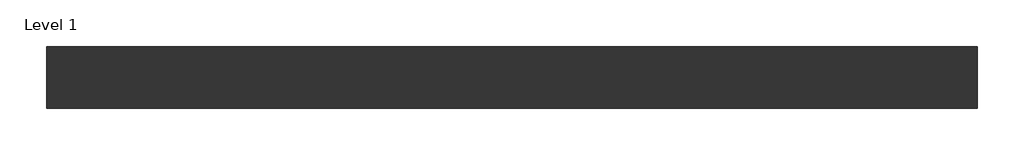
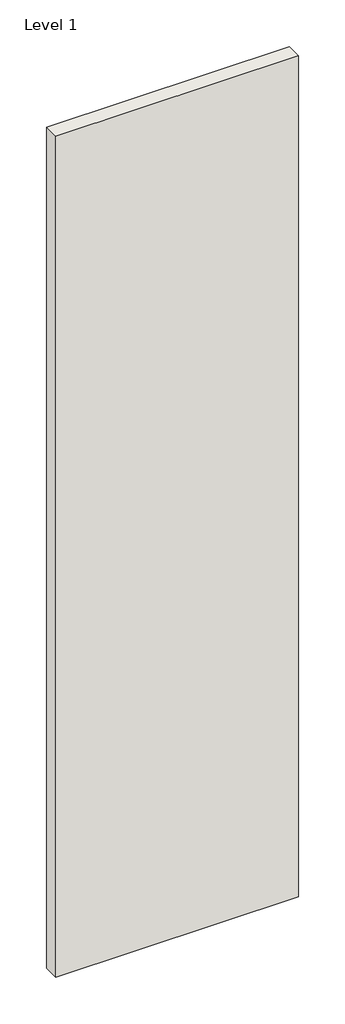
# One storey: 1 wall.
"""IFC4 building model written with IfcOpenShell, lengths in millimetres."""

from ifc_helpers import new_model, si_unit, origin, origin_with_axes, place, context, project, spatial, polyline, outline, extrude, element, save

model = new_model("IFC4")

# Units and contexts
model_context = context("Model", 3, world=origin())
ifc_project = project(units=[si_unit("LENGTHUNIT", "METRE", prefix="MILLI")], contexts=[model_context])

# Site, building, storey
site = spatial("IfcSite", under=ifc_project)
building = spatial("IfcBuilding", under=site)
storey = spatial("IfcBuildingStorey", under=building, Name="Level 1", Elevation=0.0)

# Wall
placement = place(None, origin())
element("IfcWall", 1, ObjectType="Trasdosado Simple – Placo® High Stil 125/100H a 450 mm con LM Ruller", at=placement, inside=storey, context=model_context, shape_type="SweptSolid", body=[
    extrude(outline(polyline([(-27899.638602, -99313.3787284), (-29784.638602, -99313.3787284), (-29784.638602, -99188.3787284), (-27899.638602, -99188.3787284), (-27899.638602, -99313.3787284)])), origin_with_axes(), (0.0, 0.0, 1.0), 6900.0),
])

save(model, "model.ifc")
